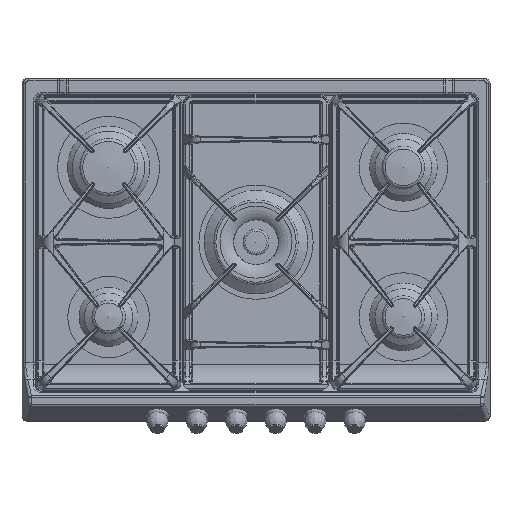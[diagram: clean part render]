
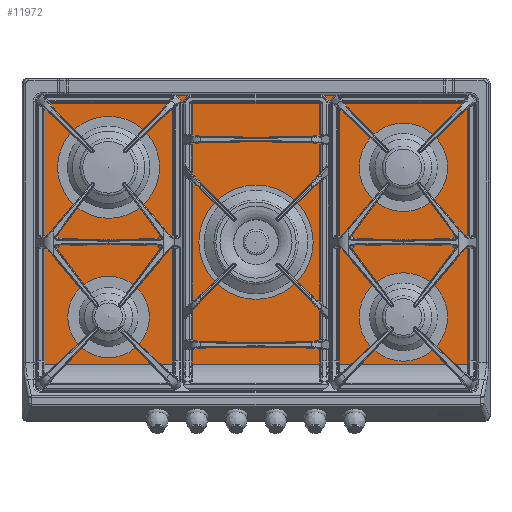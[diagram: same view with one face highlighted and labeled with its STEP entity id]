
A CAD part, top view. The second image highlights one B-rep face of the part: STEP entity #11972.
In plain terms, the highlighted planar face has unit normal (0, 0, 1).
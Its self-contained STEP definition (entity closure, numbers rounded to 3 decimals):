
#2513=LINE('',#82095,#4861);
#2514=LINE('',#82097,#4862);
#2515=LINE('',#82099,#4863);
#2516=LINE('',#82103,#4864);
#4861=VECTOR('',#53351,1.);
#4862=VECTOR('',#53352,1.);
#4863=VECTOR('',#53353,1.);
#4864=VECTOR('',#53356,1.);
#10185=FACE_BOUND('',#18255,.T.);
#10186=FACE_BOUND('',#18256,.T.);
#10187=FACE_BOUND('',#18257,.T.);
#10188=FACE_BOUND('',#18258,.T.);
#10189=FACE_BOUND('',#18259,.T.);
#10190=FACE_BOUND('',#18260,.T.);
#11972=ADVANCED_FACE('',(#10185,#10186,#10187,#10188,#10189,#10190),#13547,
 .F.);
#13547=PLANE('',#45942);
#18255=EDGE_LOOP('',(#27177));
#18256=EDGE_LOOP('',(#27178));
#18257=EDGE_LOOP('',(#27179));
#18258=EDGE_LOOP('',(#27180,#27181,#27182,#27183,#27184,#27185));
#18259=EDGE_LOOP('',(#27186));
#18260=EDGE_LOOP('',(#27187));
#27177=ORIENTED_EDGE('',*,*,#39976,.T.);
#27178=ORIENTED_EDGE('',*,*,#39977,.F.);
#27179=ORIENTED_EDGE('',*,*,#39978,.T.);
#27180=ORIENTED_EDGE('',*,*,#39979,.T.);
#27181=ORIENTED_EDGE('',*,*,#39980,.T.);
#27182=ORIENTED_EDGE('',*,*,#39981,.T.);
#27183=ORIENTED_EDGE('',*,*,#39982,.T.);
#27184=ORIENTED_EDGE('',*,*,#39983,.T.);
#27185=ORIENTED_EDGE('',*,*,#39984,.T.);
#27186=ORIENTED_EDGE('',*,*,#39985,.F.);
#27187=ORIENTED_EDGE('',*,*,#39986,.F.);
#34575=VERTEX_POINT('',#82087);
#34576=VERTEX_POINT('',#82089);
#34577=VERTEX_POINT('',#82091);
#34578=VERTEX_POINT('',#82093);
#34579=VERTEX_POINT('',#82094);
#34580=VERTEX_POINT('',#82096);
#34581=VERTEX_POINT('',#82098);
#34582=VERTEX_POINT('',#82100);
#34583=VERTEX_POINT('',#82102);
#34584=VERTEX_POINT('',#82105);
#34585=VERTEX_POINT('',#82107);
#39976=EDGE_CURVE('',#34575,#34575,#43163,.T.);
#39977=EDGE_CURVE('',#34576,#34576,#43164,.T.);
#39978=EDGE_CURVE('',#34577,#34577,#43165,.T.);
#39979=EDGE_CURVE('',#34578,#34579,#43166,.T.);
#39980=EDGE_CURVE('',#34579,#34580,#2513,.T.);
#39981=EDGE_CURVE('',#34580,#34581,#2514,.T.);
#39982=EDGE_CURVE('',#34581,#34582,#2515,.T.);
#39983=EDGE_CURVE('',#34582,#34583,#43167,.T.);
#39984=EDGE_CURVE('',#34583,#34578,#2516,.T.);
#39985=EDGE_CURVE('',#34584,#34584,#43168,.T.);
#39986=EDGE_CURVE('',#34585,#34585,#43169,.T.);
#43163=CIRCLE('',#45935,84.);
#43164=CIRCLE('',#45936,60.);
#43165=CIRCLE('',#45937,75.);
#43166=CIRCLE('',#45938,8.);
#43167=CIRCLE('',#45939,8.);
#43168=CIRCLE('',#45940,65.);
#43169=CIRCLE('',#45941,65.);
#45935=AXIS2_PLACEMENT_3D('',#82086,#53343,#53344);
#45936=AXIS2_PLACEMENT_3D('',#82088,#53345,#53346);
#45937=AXIS2_PLACEMENT_3D('',#82090,#53347,#53348);
#45938=AXIS2_PLACEMENT_3D('',#82092,#53349,#53350);
#45939=AXIS2_PLACEMENT_3D('',#82101,#53354,#53355);
#45940=AXIS2_PLACEMENT_3D('',#82104,#53357,#53358);
#45941=AXIS2_PLACEMENT_3D('',#82106,#53359,#53360);
#45942=AXIS2_PLACEMENT_3D('',#82108,#53361,#53362);
#53343=DIRECTION('',(0.,0.,-1.));
#53344=DIRECTION('',(0.,1.,0.));
#53345=DIRECTION('',(0.,0.,1.));
#53346=DIRECTION('',(0.,1.,0.));
#53347=DIRECTION('',(0.,0.,-1.));
#53348=DIRECTION('',(0.,1.,0.));
#53349=DIRECTION('',(0.,0.,1.));
#53350=DIRECTION('',(-1.,0.,0.));
#53351=DIRECTION('',(0.,-1.,0.));
#53352=DIRECTION('',(1.,0.,0.));
#53353=DIRECTION('',(0.,1.,0.));
#53354=DIRECTION('',(0.,0.,1.));
#53355=DIRECTION('',(-1.,0.,0.));
#53356=DIRECTION('',(-1.,0.,0.));
#53357=DIRECTION('',(0.,0.,1.));
#53358=DIRECTION('',(0.,1.,0.));
#53359=DIRECTION('',(0.,0.,1.));
#53360=DIRECTION('',(0.,1.,0.));
#53361=DIRECTION('',(0.,0.,-1.));
#53362=DIRECTION('',(-1.,0.,0.));
#82086=CARTESIAN_POINT('',(0.,11.25,15.));
#82087=CARTESIAN_POINT('',(0.,95.25,15.));
#82088=CARTESIAN_POINT('',(-216.7,-98.75,15.));
#82089=CARTESIAN_POINT('',(-216.7,-38.75,15.));
#82090=CARTESIAN_POINT('',(-216.7,121.25,15.));
#82091=CARTESIAN_POINT('',(-216.7,196.25,15.));
#82092=CARTESIAN_POINT('',(-315.,218.25,15.));
#82093=CARTESIAN_POINT('',(-315.,226.25,15.));
#82094=CARTESIAN_POINT('',(-323.,218.25,15.));
#82095=CARTESIAN_POINT('',(-323.,-168.177,15.));
#82096=CARTESIAN_POINT('',(-323.,-168.177,15.));
#82097=CARTESIAN_POINT('',(-325.,-168.177,15.));
#82098=CARTESIAN_POINT('',(323.,-168.177,15.));
#82099=CARTESIAN_POINT('',(323.,218.25,15.));
#82100=CARTESIAN_POINT('',(323.,218.25,15.));
#82101=CARTESIAN_POINT('',(315.,218.25,15.));
#82102=CARTESIAN_POINT('',(315.,226.25,15.));
#82103=CARTESIAN_POINT('',(-315.,226.25,15.));
#82104=CARTESIAN_POINT('',(216.7,-98.75,15.));
#82105=CARTESIAN_POINT('',(216.7,-33.75,15.));
#82106=CARTESIAN_POINT('',(216.7,121.25,15.));
#82107=CARTESIAN_POINT('',(216.7,186.25,15.));
#82108=CARTESIAN_POINT('',(-325.,-168.177,15.));
